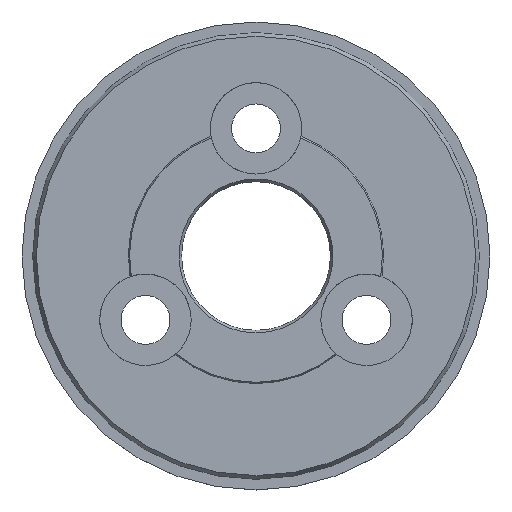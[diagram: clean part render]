
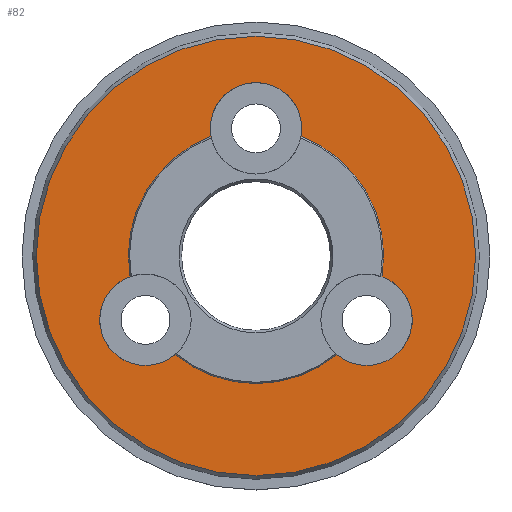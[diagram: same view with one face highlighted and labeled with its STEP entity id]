
A CAD part, top view. The second image highlights one B-rep face of the part: STEP entity #82.
In plain terms, the highlighted planar face has unit normal (0, 0, 1).
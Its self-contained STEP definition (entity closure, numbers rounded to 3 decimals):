
#82=ADVANCED_FACE('',(#121,#122),#106,.T.);
#106=PLANE('',#445);
#121=FACE_BOUND('',#168,.T.);
#122=FACE_BOUND('',#169,.T.);
#168=EDGE_LOOP('',(#225,#226,#227,#228,#229,#230));
#169=EDGE_LOOP('',(#231));
#225=ORIENTED_EDGE('',*,*,#356,.F.);
#226=ORIENTED_EDGE('',*,*,#348,.T.);
#227=ORIENTED_EDGE('',*,*,#357,.F.);
#228=ORIENTED_EDGE('',*,*,#352,.T.);
#229=ORIENTED_EDGE('',*,*,#358,.F.);
#230=ORIENTED_EDGE('',*,*,#359,.T.);
#231=ORIENTED_EDGE('',*,*,#360,.T.);
#308=VERTEX_POINT('',#631);
#310=VERTEX_POINT('',#635);
#312=VERTEX_POINT('',#640);
#314=VERTEX_POINT('',#644);
#318=VERTEX_POINT('',#656);
#319=VERTEX_POINT('',#659);
#320=VERTEX_POINT('',#662);
#348=EDGE_CURVE('',#308,#310,#393,.T.);
#352=EDGE_CURVE('',#312,#314,#395,.T.);
#356=EDGE_CURVE('',#308,#318,#399,.T.);
#357=EDGE_CURVE('',#312,#310,#400,.T.);
#358=EDGE_CURVE('',#319,#314,#401,.T.);
#359=EDGE_CURVE('',#319,#318,#402,.T.);
#360=EDGE_CURVE('',#320,#320,#403,.T.);
#393=CIRCLE('',#430,6.);
#395=CIRCLE('',#433,6.);
#399=CIRCLE('',#440,2.15);
#400=CIRCLE('',#441,2.15);
#401=CIRCLE('',#442,2.15);
#402=CIRCLE('',#443,6.);
#403=CIRCLE('',#444,10.327);
#430=AXIS2_PLACEMENT_3D('',#636,#503,#504);
#433=AXIS2_PLACEMENT_3D('',#645,#511,#512);
#440=AXIS2_PLACEMENT_3D('',#655,#525,#526);
#441=AXIS2_PLACEMENT_3D('',#657,#527,#528);
#442=AXIS2_PLACEMENT_3D('',#658,#529,#530);
#443=AXIS2_PLACEMENT_3D('',#660,#531,#532);
#444=AXIS2_PLACEMENT_3D('',#661,#533,#534);
#445=AXIS2_PLACEMENT_3D('',#663,#535,#536);
#503=DIRECTION('',(0.,0.,-1.));
#504=DIRECTION('',(1.,0.,0.));
#511=DIRECTION('',(0.,0.,-1.));
#512=DIRECTION('',(1.,0.,0.));
#525=DIRECTION('',(0.,0.,1.));
#526=DIRECTION('',(1.,0.,0.));
#527=DIRECTION('',(0.,0.,1.));
#528=DIRECTION('',(1.,0.,0.));
#529=DIRECTION('',(0.,0.,1.));
#530=DIRECTION('',(1.,0.,0.));
#531=DIRECTION('',(0.,0.,-1.));
#532=DIRECTION('',(1.,0.,0.));
#533=DIRECTION('',(0.,0.,1.));
#534=DIRECTION('',(1.,0.,0.));
#535=DIRECTION('',(0.,0.,1.));
#536=DIRECTION('',(1.,0.,0.));
#631=CARTESIAN_POINT('',(3.805,-4.639,3.85));
#635=CARTESIAN_POINT('',(-3.805,-4.639,3.85));
#636=CARTESIAN_POINT('',(0.,0.,3.85));
#640=CARTESIAN_POINT('',(-5.92,-0.976,3.85));
#644=CARTESIAN_POINT('',(-2.115,5.615,3.85));
#645=CARTESIAN_POINT('',(0.,0.,3.85));
#655=CARTESIAN_POINT('',(5.196,-3.,3.85));
#656=CARTESIAN_POINT('',(5.92,-0.976,3.85));
#657=CARTESIAN_POINT('',(-5.196,-3.,3.85));
#658=CARTESIAN_POINT('',(0.,6.,3.85));
#659=CARTESIAN_POINT('',(2.115,5.615,3.85));
#660=CARTESIAN_POINT('',(0.,0.,3.85));
#661=CARTESIAN_POINT('',(0.,0.,3.85));
#662=CARTESIAN_POINT('',(10.327,0.,3.85));
#663=CARTESIAN_POINT('',(0.,0.,3.85));
